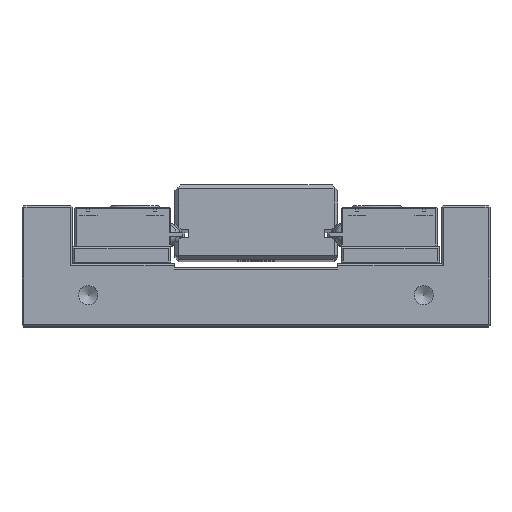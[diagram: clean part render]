
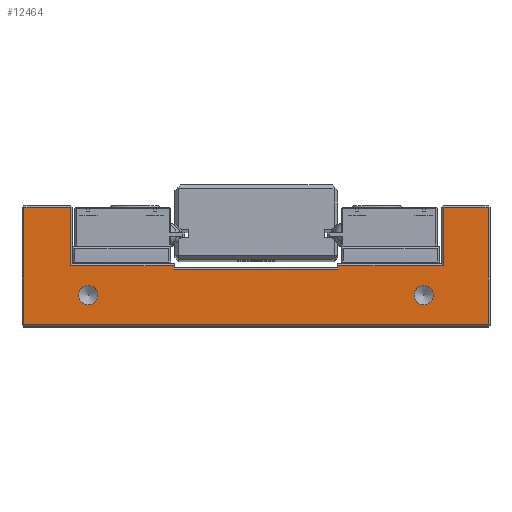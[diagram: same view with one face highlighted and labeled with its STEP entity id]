
A CAD part, top view. The second image highlights one B-rep face of the part: STEP entity #12464.
In plain terms, the highlighted planar face has unit normal (0, 0, 1).
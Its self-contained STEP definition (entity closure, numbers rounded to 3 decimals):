
#409=FACE_BOUND('',#2274,.T.);
#410=FACE_BOUND('',#2275,.T.);
#913=PLANE('',#13537);
#1526=FACE_OUTER_BOUND('',#2273,.T.);
#2273=EDGE_LOOP('',(#10498,#10499,#10500,#10501,#10502,#10503,#10504,#10505,
#10506,#10507,#10508,#10509));
#2274=EDGE_LOOP('',(#10510));
#2275=EDGE_LOOP('',(#10511));
#3253=LINE('',#20568,#4281);
#3325=LINE('',#20782,#4353);
#3354=LINE('',#20836,#4382);
#3356=LINE('',#20839,#4384);
#3358=LINE('',#20843,#4386);
#3359=LINE('',#20845,#4387);
#3361=LINE('',#20849,#4389);
#3362=LINE('',#20851,#4390);
#3365=LINE('',#20856,#4393);
#3367=LINE('',#20860,#4395);
#3369=LINE('',#20864,#4397);
#3370=LINE('',#20866,#4398);
#4281=VECTOR('',#16056,10.);
#4353=VECTOR('',#16280,10.);
#4382=VECTOR('',#16343,10.);
#4384=VECTOR('',#16347,10.);
#4386=VECTOR('',#16353,10.);
#4387=VECTOR('',#16356,10.);
#4389=VECTOR('',#16362,10.);
#4390=VECTOR('',#16365,10.);
#4393=VECTOR('',#16370,10.);
#4395=VECTOR('',#16374,10.);
#4397=VECTOR('',#16380,10.);
#4398=VECTOR('',#16383,10.);
#4845=CIRCLE('',#13538,2.459);
#4846=CIRCLE('',#13539,2.459);
#5778=VERTEX_POINT('',#20561);
#5781=VERTEX_POINT('',#20566);
#5839=VERTEX_POINT('',#20747);
#5844=VERTEX_POINT('',#20765);
#5846=VERTEX_POINT('',#20779);
#5847=VERTEX_POINT('',#20781);
#5848=VERTEX_POINT('',#20785);
#5850=VERTEX_POINT('',#20797);
#5851=VERTEX_POINT('',#20802);
#5853=VERTEX_POINT('',#20820);
#5856=VERTEX_POINT('',#20855);
#5857=VERTEX_POINT('',#20859);
#5858=VERTEX_POINT('',#20867);
#5859=VERTEX_POINT('',#20869);
#7325=EDGE_CURVE('',#5781,#5778,#3253,.T.);
#7431=EDGE_CURVE('',#5846,#5847,#3325,.T.);
#7460=EDGE_CURVE('',#5850,#5853,#3354,.T.);
#7462=EDGE_CURVE('',#5853,#5851,#3356,.T.);
#7464=EDGE_CURVE('',#5851,#5848,#3358,.T.);
#7465=EDGE_CURVE('',#5847,#5850,#3359,.T.);
#7467=EDGE_CURVE('',#5848,#5844,#3361,.T.);
#7468=EDGE_CURVE('',#5844,#5839,#3362,.T.);
#7471=EDGE_CURVE('',#5839,#5856,#3365,.T.);
#7473=EDGE_CURVE('',#5856,#5857,#3367,.T.);
#7475=EDGE_CURVE('',#5781,#5857,#3369,.T.);
#7476=EDGE_CURVE('',#5846,#5778,#3370,.T.);
#7477=EDGE_CURVE('',#5858,#5858,#4845,.T.);
#7478=EDGE_CURVE('',#5859,#5859,#4846,.T.);
#10498=ORIENTED_EDGE('',*,*,#7475,.T.);
#10499=ORIENTED_EDGE('',*,*,#7473,.F.);
#10500=ORIENTED_EDGE('',*,*,#7471,.F.);
#10501=ORIENTED_EDGE('',*,*,#7468,.F.);
#10502=ORIENTED_EDGE('',*,*,#7467,.F.);
#10503=ORIENTED_EDGE('',*,*,#7464,.F.);
#10504=ORIENTED_EDGE('',*,*,#7462,.F.);
#10505=ORIENTED_EDGE('',*,*,#7460,.F.);
#10506=ORIENTED_EDGE('',*,*,#7465,.F.);
#10507=ORIENTED_EDGE('',*,*,#7431,.F.);
#10508=ORIENTED_EDGE('',*,*,#7476,.T.);
#10509=ORIENTED_EDGE('',*,*,#7325,.F.);
#10510=ORIENTED_EDGE('',*,*,#7477,.T.);
#10511=ORIENTED_EDGE('',*,*,#7478,.T.);
#12464=ADVANCED_FACE('',(#1526,#409,#410),#913,.T.);
#13537=AXIS2_PLACEMENT_3D('',#20865,#16381,#16382);
#13538=AXIS2_PLACEMENT_3D('',#20868,#16384,#16385);
#13539=AXIS2_PLACEMENT_3D('',#20870,#16386,#16387);
#16056=DIRECTION('',(1.,0.,0.));
#16280=DIRECTION('',(1.,0.,0.));
#16343=DIRECTION('',(1.,0.,0.));
#16347=DIRECTION('',(0.,-1.,0.));
#16353=DIRECTION('',(-1.,0.,0.));
#16356=DIRECTION('',(0.,1.,0.));
#16362=DIRECTION('',(0.,1.,0.));
#16365=DIRECTION('',(1.,0.,0.));
#16370=DIRECTION('',(0.,-1.,0.));
#16374=DIRECTION('',(1.,0.,0.));
#16380=DIRECTION('',(0.,1.,0.));
#16381=DIRECTION('center_axis',(0.,0.,1.));
#16382=DIRECTION('ref_axis',(1.,0.,0.));
#16383=DIRECTION('',(0.,-1.,0.));
#16384=DIRECTION('center_axis',(0.,0.,-1.));
#16385=DIRECTION('ref_axis',(-1.,0.,0.));
#16386=DIRECTION('center_axis',(0.,0.,-1.));
#16387=DIRECTION('ref_axis',(-1.,0.,0.));
#20561=CARTESIAN_POINT('',(23.66,11.195,52.5));
#20566=CARTESIAN_POINT('',(-18.34,11.195,52.5));
#20568=CARTESIAN_POINT('',(13.16,11.195,52.5));
#20747=CARTESIAN_POINT('',(-44.84,26.995,52.5));
#20765=CARTESIAN_POINT('',(-56.84,26.995,52.5));
#20779=CARTESIAN_POINT('',(23.66,11.995,52.5));
#20781=CARTESIAN_POINT('',(50.66,11.995,52.5));
#20782=CARTESIAN_POINT('',(26.41,11.995,52.5));
#20785=CARTESIAN_POINT('',(-56.84,-3.005,52.5));
#20797=CARTESIAN_POINT('',(50.66,26.995,52.5));
#20802=CARTESIAN_POINT('',(62.16,-3.005,52.5));
#20820=CARTESIAN_POINT('',(62.16,26.995,52.5));
#20836=CARTESIAN_POINT('',(32.66,26.995,52.5));
#20839=CARTESIAN_POINT('',(62.16,4.245,52.5));
#20843=CARTESIAN_POINT('',(-27.34,-3.005,52.5));
#20845=CARTESIAN_POINT('',(50.66,19.745,52.5));
#20849=CARTESIAN_POINT('',(-56.84,19.745,52.5));
#20851=CARTESIAN_POINT('',(-20.84,26.995,52.5));
#20855=CARTESIAN_POINT('',(-44.84,11.995,52.5));
#20856=CARTESIAN_POINT('',(-44.84,12.245,52.5));
#20859=CARTESIAN_POINT('',(-18.34,11.995,52.5));
#20860=CARTESIAN_POINT('',(-7.84,11.995,52.5));
#20864=CARTESIAN_POINT('',(-18.34,11.695,52.5));
#20865=CARTESIAN_POINT('Origin',(2.66,11.995,52.5));
#20866=CARTESIAN_POINT('',(23.66,12.495,52.5));
#20867=CARTESIAN_POINT('',(-37.881,4.495,52.5));
#20868=CARTESIAN_POINT('Origin',(-40.34,4.495,52.5));
#20869=CARTESIAN_POINT('',(48.119,4.495,52.5));
#20870=CARTESIAN_POINT('Origin',(45.66,4.495,52.5));
